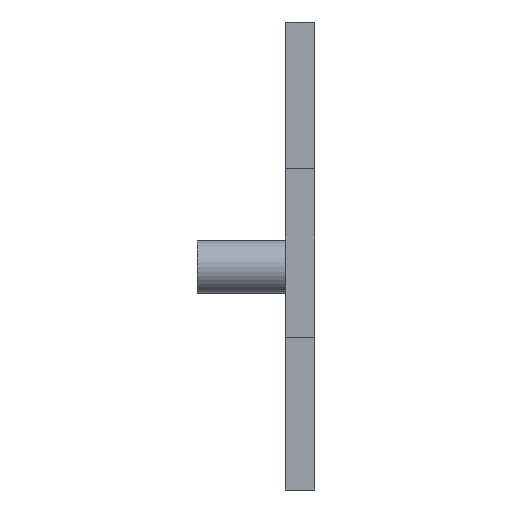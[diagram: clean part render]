
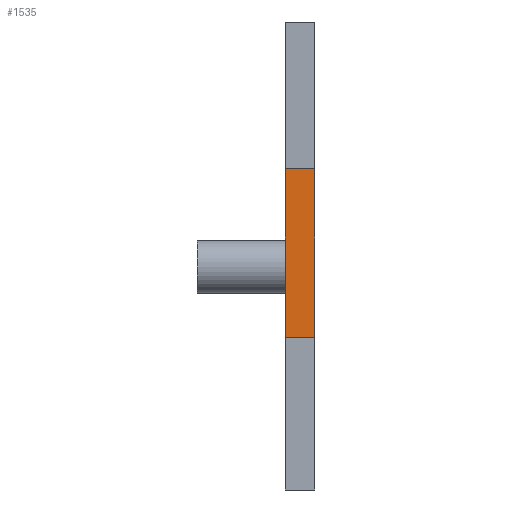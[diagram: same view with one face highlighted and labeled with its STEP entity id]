
A CAD part, front view. The second image highlights one B-rep face of the part: STEP entity #1535.
In plain terms, the highlighted planar face has unit normal (0, -1, 0).
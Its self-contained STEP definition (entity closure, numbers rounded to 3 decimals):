
#44 = PLANE('',#45);
#45 = AXIS2_PLACEMENT_3D('',#46,#47,#48);
#46 = CARTESIAN_POINT('',(42.,0.,-97.));
#47 = DIRECTION('',(1.,0.,0.));
#48 = DIRECTION('',(0.,0.,1.));
#100 = PLANE('',#101);
#101 = AXIS2_PLACEMENT_3D('',#102,#103,#104);
#102 = CARTESIAN_POINT('',(47.,0.,-97.));
#103 = DIRECTION('',(1.,0.,0.));
#104 = DIRECTION('',(0.,0.,1.));
#591 = VERTEX_POINT('',#592);
#592 = CARTESIAN_POINT('',(42.,-48.,-55.25));
#606 = PLANE('',#607);
#607 = AXIS2_PLACEMENT_3D('',#608,#609,#610);
#608 = CARTESIAN_POINT('',(42.,-73.,-55.25));
#609 = DIRECTION('',(0.,0.,1.));
#610 = DIRECTION('',(0.,1.,0.));
#618 = EDGE_CURVE('',#591,#619,#621,.T.);
#619 = VERTEX_POINT('',#620);
#620 = CARTESIAN_POINT('',(42.,-48.,-84.));
#621 = SURFACE_CURVE('',#622,(#626,#633),.PCURVE_S1.);
#622 = LINE('',#623,#624);
#623 = CARTESIAN_POINT('',(42.,-48.,-45.25));
#624 = VECTOR('',#625,1.);
#625 = DIRECTION('',(0.,0.,-1.));
#626 = PCURVE('',#44,#627);
#627 = DEFINITIONAL_REPRESENTATION('',(#628),#632);
#628 = LINE('',#629,#630);
#629 = CARTESIAN_POINT('',(51.75,48.));
#630 = VECTOR('',#631,1.);
#631 = DIRECTION('',(-1.,0.));
#632 = ( GEOMETRIC_REPRESENTATION_CONTEXT(2) 
PARAMETRIC_REPRESENTATION_CONTEXT() REPRESENTATION_CONTEXT('2D SPACE',''
  ) );
#633 = PCURVE('',#634,#639);
#634 = PLANE('',#635);
#635 = AXIS2_PLACEMENT_3D('',#636,#637,#638);
#636 = CARTESIAN_POINT('',(42.,-48.,-45.25));
#637 = DIRECTION('',(0.,1.,0.));
#638 = DIRECTION('',(0.,0.,-1.));
#639 = DEFINITIONAL_REPRESENTATION('',(#640),#644);
#640 = LINE('',#641,#642);
#641 = CARTESIAN_POINT('',(0.,0.));
#642 = VECTOR('',#643,1.);
#643 = DIRECTION('',(1.,0.));
#644 = ( GEOMETRIC_REPRESENTATION_CONTEXT(2) 
PARAMETRIC_REPRESENTATION_CONTEXT() REPRESENTATION_CONTEXT('2D SPACE',''
  ) );
#660 = PLANE('',#661);
#661 = AXIS2_PLACEMENT_3D('',#662,#663,#664);
#662 = CARTESIAN_POINT('',(42.,52.,-84.));
#663 = DIRECTION('',(0.,0.,-1.));
#664 = DIRECTION('',(0.,-1.,0.));
#1252 = VERTEX_POINT('',#1253);
#1253 = CARTESIAN_POINT('',(47.,-48.,-55.25));
#1274 = EDGE_CURVE('',#1252,#1275,#1277,.T.);
#1275 = VERTEX_POINT('',#1276);
#1276 = CARTESIAN_POINT('',(47.,-48.,-84.));
#1277 = SURFACE_CURVE('',#1278,(#1282,#1289),.PCURVE_S1.);
#1278 = LINE('',#1279,#1280);
#1279 = CARTESIAN_POINT('',(47.,-48.,-45.25));
#1280 = VECTOR('',#1281,1.);
#1281 = DIRECTION('',(0.,0.,-1.));
#1282 = PCURVE('',#100,#1283);
#1283 = DEFINITIONAL_REPRESENTATION('',(#1284),#1288);
#1284 = LINE('',#1285,#1286);
#1285 = CARTESIAN_POINT('',(51.75,48.));
#1286 = VECTOR('',#1287,1.);
#1287 = DIRECTION('',(-1.,0.));
#1288 = ( GEOMETRIC_REPRESENTATION_CONTEXT(2) 
PARAMETRIC_REPRESENTATION_CONTEXT() REPRESENTATION_CONTEXT('2D SPACE',''
  ) );
#1289 = PCURVE('',#634,#1290);
#1290 = DEFINITIONAL_REPRESENTATION('',(#1291),#1295);
#1291 = LINE('',#1292,#1293);
#1292 = CARTESIAN_POINT('',(0.,-5.));
#1293 = VECTOR('',#1294,1.);
#1294 = DIRECTION('',(1.,0.));
#1295 = ( GEOMETRIC_REPRESENTATION_CONTEXT(2) 
PARAMETRIC_REPRESENTATION_CONTEXT() REPRESENTATION_CONTEXT('2D SPACE',''
  ) );
#1516 = EDGE_CURVE('',#619,#1275,#1517,.T.);
#1517 = SURFACE_CURVE('',#1518,(#1522,#1528),.PCURVE_S1.);
#1518 = LINE('',#1519,#1520);
#1519 = CARTESIAN_POINT('',(42.,-48.,-84.));
#1520 = VECTOR('',#1521,1.);
#1521 = DIRECTION('',(1.,0.,0.));
#1522 = PCURVE('',#660,#1523);
#1523 = DEFINITIONAL_REPRESENTATION('',(#1524),#1527);
#1524 = B_SPLINE_CURVE_WITH_KNOTS('',1,(#1525,#1526),.UNSPECIFIED.,.F.,
  .F.,(2,2),(0.,5.),.PIECEWISE_BEZIER_KNOTS.);
#1525 = CARTESIAN_POINT('',(100.,0.));
#1526 = CARTESIAN_POINT('',(100.,-5.));
#1527 = ( GEOMETRIC_REPRESENTATION_CONTEXT(2) 
PARAMETRIC_REPRESENTATION_CONTEXT() REPRESENTATION_CONTEXT('2D SPACE',''
  ) );
#1528 = PCURVE('',#634,#1529);
#1529 = DEFINITIONAL_REPRESENTATION('',(#1530),#1533);
#1530 = B_SPLINE_CURVE_WITH_KNOTS('',1,(#1531,#1532),.UNSPECIFIED.,.F.,
  .F.,(2,2),(0.,5.),.PIECEWISE_BEZIER_KNOTS.);
#1531 = CARTESIAN_POINT('',(38.75,0.));
#1532 = CARTESIAN_POINT('',(38.75,-5.));
#1533 = ( GEOMETRIC_REPRESENTATION_CONTEXT(2) 
PARAMETRIC_REPRESENTATION_CONTEXT() REPRESENTATION_CONTEXT('2D SPACE',''
  ) );
#1535 = ADVANCED_FACE('',(#1536),#634,.F.);
#1536 = FACE_BOUND('',#1537,.F.);
#1537 = EDGE_LOOP('',(#1538,#1539,#1558,#1559));
#1538 = ORIENTED_EDGE('',*,*,#618,.F.);
#1539 = ORIENTED_EDGE('',*,*,#1540,.T.);
#1540 = EDGE_CURVE('',#591,#1252,#1541,.T.);
#1541 = SURFACE_CURVE('',#1542,(#1546,#1552),.PCURVE_S1.);
#1542 = LINE('',#1543,#1544);
#1543 = CARTESIAN_POINT('',(42.,-48.,-55.25));
#1544 = VECTOR('',#1545,1.);
#1545 = DIRECTION('',(1.,0.,0.));
#1546 = PCURVE('',#634,#1547);
#1547 = DEFINITIONAL_REPRESENTATION('',(#1548),#1551);
#1548 = B_SPLINE_CURVE_WITH_KNOTS('',1,(#1549,#1550),.UNSPECIFIED.,.F.,
  .F.,(2,2),(0.,5.),.PIECEWISE_BEZIER_KNOTS.);
#1549 = CARTESIAN_POINT('',(10.,0.));
#1550 = CARTESIAN_POINT('',(10.,-5.));
#1551 = ( GEOMETRIC_REPRESENTATION_CONTEXT(2) 
PARAMETRIC_REPRESENTATION_CONTEXT() REPRESENTATION_CONTEXT('2D SPACE',''
  ) );
#1552 = PCURVE('',#606,#1553);
#1553 = DEFINITIONAL_REPRESENTATION('',(#1554),#1557);
#1554 = B_SPLINE_CURVE_WITH_KNOTS('',1,(#1555,#1556),.UNSPECIFIED.,.F.,
  .F.,(2,2),(0.,5.),.PIECEWISE_BEZIER_KNOTS.);
#1555 = CARTESIAN_POINT('',(25.,0.));
#1556 = CARTESIAN_POINT('',(25.,-5.));
#1557 = ( GEOMETRIC_REPRESENTATION_CONTEXT(2) 
PARAMETRIC_REPRESENTATION_CONTEXT() REPRESENTATION_CONTEXT('2D SPACE',''
  ) );
#1558 = ORIENTED_EDGE('',*,*,#1274,.T.);
#1559 = ORIENTED_EDGE('',*,*,#1516,.F.);
